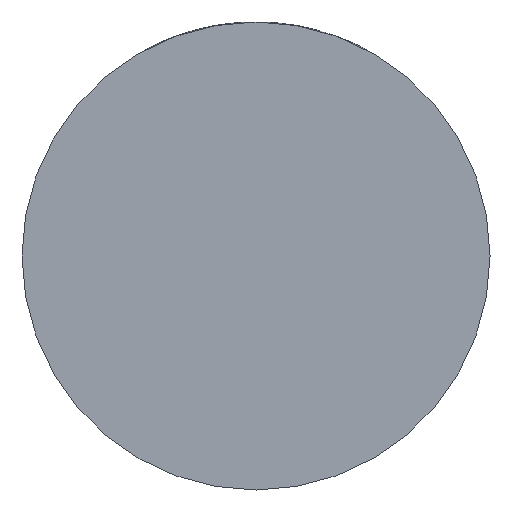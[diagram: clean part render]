
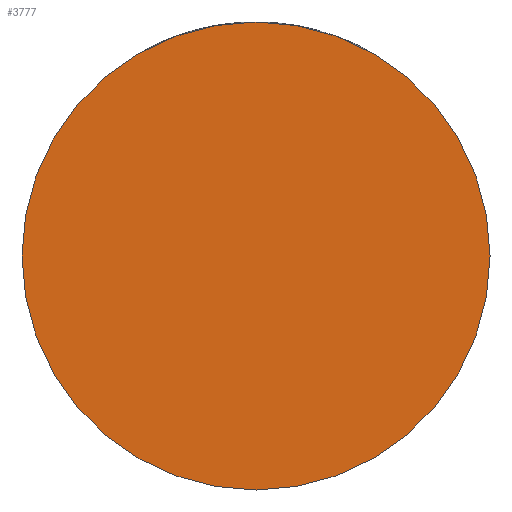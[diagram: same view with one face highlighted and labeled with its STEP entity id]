
A CAD part, front view. The second image highlights one B-rep face of the part: STEP entity #3777.
In plain terms, the highlighted planar face has unit normal (0, -1, 0).
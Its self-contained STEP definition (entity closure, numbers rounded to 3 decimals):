
#257 = FACE_OUTER_BOUND ( 'NONE', #4442, .T. ) ;
#301 = AXIS2_PLACEMENT_3D ( 'NONE', #3225, #2456, #3855 ) ;
#675 = CARTESIAN_POINT ( 'NONE',  ( 0., -39., 0. ) ) ;
#683 = VERTEX_POINT ( 'NONE', #1132 ) ;
#692 = ORIENTED_EDGE ( 'NONE', *, *, #1785, .T. ) ;
#1073 = EDGE_CURVE ( 'NONE', #683, #1975, #2292, .T. ) ;
#1132 = CARTESIAN_POINT ( 'NONE',  ( -39., -39., 0. ) ) ;
#1785 = EDGE_CURVE ( 'NONE', #1975, #683, #1795, .T. ) ;
#1795 = CIRCLE ( 'NONE', #2530, 39. ) ;
#1975 = VERTEX_POINT ( 'NONE', #3526 ) ;
#2100 = DIRECTION ( 'NONE',  ( 0., -1., 0. ) ) ;
#2292 = CIRCLE ( 'NONE', #301, 39. ) ;
#2456 = DIRECTION ( 'NONE',  ( 0., -1., 0. ) ) ;
#2530 = AXIS2_PLACEMENT_3D ( 'NONE', #675, #2100, #3506 ) ;
#2697 = DIRECTION ( 'NONE',  ( 1., 0., 0. ) ) ;
#2791 = PLANE ( 'NONE',  #4200 ) ;
#2836 = ORIENTED_EDGE ( 'NONE', *, *, #1073, .T. ) ;
#3225 = CARTESIAN_POINT ( 'NONE',  ( 0., -39., 0. ) ) ;
#3506 = DIRECTION ( 'NONE',  ( 1., 0., 0. ) ) ;
#3526 = CARTESIAN_POINT ( 'NONE',  ( 39., -39., 0. ) ) ;
#3777 = ADVANCED_FACE ( 'NONE', ( #257 ), #2791, .T. ) ;
#3855 = DIRECTION ( 'NONE',  ( 1., 0., 0. ) ) ;
#4170 = DIRECTION ( 'NONE',  ( 0., -1., 0. ) ) ;
#4189 = CARTESIAN_POINT ( 'NONE',  ( 0., -39., 0. ) ) ;
#4200 = AXIS2_PLACEMENT_3D ( 'NONE', #4189, #4170, #2697 ) ;
#4442 = EDGE_LOOP ( 'NONE', ( #2836, #692 ) ) ;
